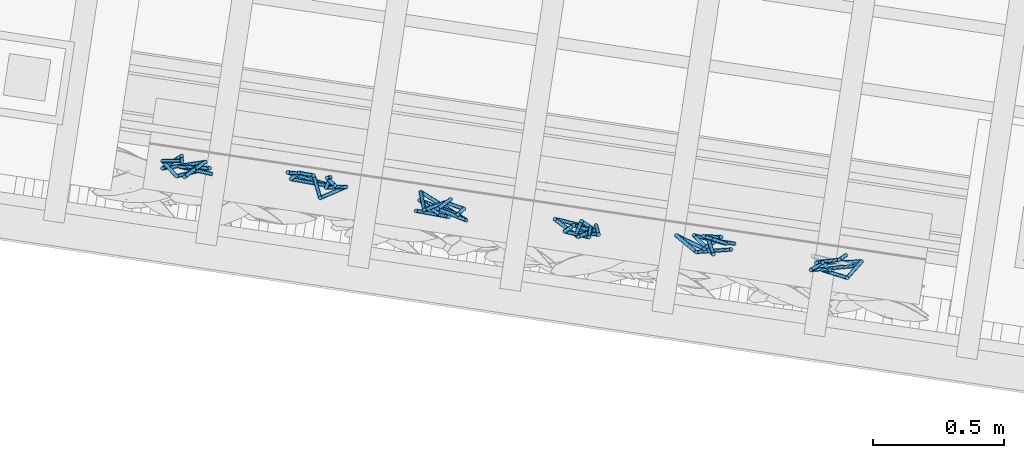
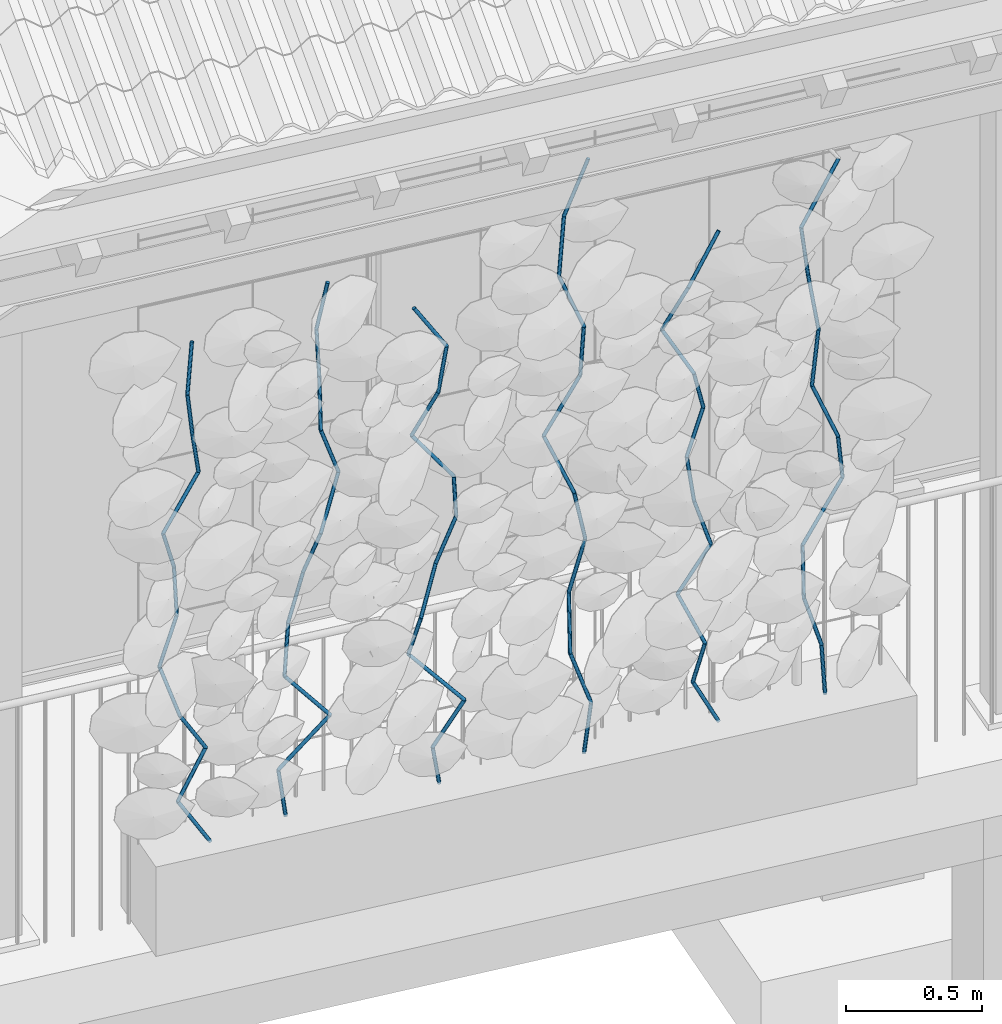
# One storey, part 109 of 131: 65 members, 1 element without a shape of its own.
"""IFC4 building model written with IfcOpenShell, lengths in metres."""

from ifc_helpers import new_model, si_unit, direction, frame, origin_with_axes, place, context, subcontext, project, spatial, circle, extrude, material, material_profile, profile_set, profile_usage, type_object, element, aggregate, save


model = new_model("IFC4")

# Units and contexts
model_context = context("Model", 3, precision=1e-05, world=origin_with_axes(), true_north=direction((0.0, 1.0)))
body_context = subcontext(model_context, "Body", "Model", "MODEL_VIEW")
ifc_project = project(units=[si_unit("AREAUNIT", "SQUARE_METRE"), si_unit("VOLUMEUNIT", "CUBIC_METRE"), si_unit("LENGTHUNIT", "METRE")], contexts=[model_context])

# Site, building, storey
site_placement = place(None, origin_with_axes())
site = spatial("IfcSite", under=ifc_project, at=site_placement, Name="Lares · Rua das Mercês · artigo 4771")
building_placement = place(site_placement, frame((15.0, 9.7, 14.65), z_axis=(0.0, 0.0, 1.0), x_axis=(0.989015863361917, -0.147809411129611, 0.0)))
building = spatial("IfcBuilding", under=site, at=building_placement, Name="Casa Sobreposta")
storey_placement = place(building_placement, origin_with_axes())
storey = spatial("IfcBuildingStorey", under=building, at=storey_placement, Name="00 · Habitação e estacionamento", Elevation=14.65)

# Assembly, members
assembly_placement = place(storey_placement, origin_with_axes())
assembly = element("IfcElementAssembly", 1, at=assembly_placement, inside=storey, Name="Fachada sul e pátio · estrutura e trepadeiras", ObjectType="LIVING_SHADE_TRELLIS", PredefinedType="USERDEFINED")
ifc_material = material(Name="Ramos de trepadeiras", Category="wood")
ifc_material_profile = material_profile(ifc_material, circle(Radius=0.0075))
ifc_profile_set = profile_set([ifc_material_profile], Name="D0.015")
ifc_profile_usage_1 = profile_usage(ifc_profile_set)
member_type = type_object("IfcMemberType", Name="D0.015 / vine_wood", PredefinedType="NOTDEFINED", material=ifc_profile_set)
member_1_placement = place(assembly_placement, frame((4.75122920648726, -1.69070800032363, 0.35), z_axis=(-0.518684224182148, 0.0390930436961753, 0.85407166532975), x_axis=(0.0751564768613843, 0.997171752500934, 0.0)))
member_1 = element("IfcMember", 2, at=member_1_placement, type_object=member_type, material=ifc_profile_usage_1, Name="Trepadeiras · ramo", context=body_context, shape_type="SweptSolid", body=[
    extrude(circle(Radius=0.0075), origin_with_axes(), (0.0, 0.0, 1.0), 0.239359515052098),
])
ifc_profile_usage_2 = profile_usage(ifc_profile_set)
member_2_placement = place(assembly_placement, frame((4.62707720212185, -1.68135070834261, 0.554430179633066), z_axis=(0.489334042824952, 0.051012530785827, 0.870603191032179), x_axis=(0.103686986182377, -0.994609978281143, 0.0)))
member_2 = element("IfcMember", 3, at=member_2_placement, type_object=member_type, material=ifc_profile_usage_2, Name="Trepadeiras · ramo", context=body_context, shape_type="SweptSolid", body=[
    extrude(circle(Radius=0.0075), origin_with_axes(), (0.0, 0.0, 1.0), 0.2348144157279),
])
ifc_profile_usage_3 = profile_usage(ifc_profile_set)
member_3_placement = place(assembly_placement, frame((4.74197988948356, -1.66937223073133, 0.758860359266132), z_axis=(-0.498709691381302, -0.204181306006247, 0.842376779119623), x_axis=(-0.378893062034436, 0.925440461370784, 0.0)))
member_3 = element("IfcMember", 4, at=member_3_placement, type_object=member_type, material=ifc_profile_usage_3, Name="Trepadeiras · ramo", context=body_context, shape_type="SweptSolid", body=[
    extrude(circle(Radius=0.0075), origin_with_axes(), (0.0, 0.0, 1.0), 0.242682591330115),
])
ifc_profile_usage_4 = profile_usage(ifc_profile_set)
member_4_placement = place(assembly_placement, frame((4.6209517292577, -1.71892347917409, 0.963290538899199), z_axis=(-0.281420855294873, 0.2249680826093, 0.932840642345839), x_axis=(0.624409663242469, 0.78109703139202, 0.0)))
member_4 = element("IfcMember", 5, at=member_4_placement, type_object=member_type, material=ifc_profile_usage_4, Name="Trepadeiras · ramo", context=body_context, shape_type="SweptSolid", body=[
    extrude(circle(Radius=0.0075), origin_with_axes(), (0.0, 0.0, 1.0), 0.219148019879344),
])
ifc_profile_usage_5 = profile_usage(ifc_profile_set)
member_5_placement = place(assembly_placement, frame((4.55927890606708, -1.66962216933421, 1.16772071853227), z_axis=(0.334839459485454, 0.0497730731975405, 0.940959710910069), x_axis=(0.147032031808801, -0.989131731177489, 0.0)))
member_5 = element("IfcMember", 6, at=member_5_placement, type_object=member_type, material=ifc_profile_usage_5, Name="Trepadeiras · ramo", context=body_context, shape_type="SweptSolid", body=[
    extrude(circle(Radius=0.0075), origin_with_axes(), (0.0, 0.0, 1.0), 0.217257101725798),
])
ifc_profile_usage_6 = profile_usage(ifc_profile_set)
member_6_placement = place(assembly_placement, frame((4.63202515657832, -1.65880861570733, 1.37215089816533), z_axis=(-0.0155370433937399, 0.0965979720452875, 0.995202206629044), x_axis=(0.987310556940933, 0.158801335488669, -2.20565392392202e-18)))
member_6 = element("IfcMember", 7, at=member_6_placement, type_object=member_type, material=ifc_profile_usage_6, Name="Trepadeiras · ramo", context=body_context, shape_type="SweptSolid", body=[
    extrude(circle(Radius=0.0075), origin_with_axes(), (0.0, 0.0, 1.0), 0.205415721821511),
])
ifc_profile_usage_7 = profile_usage(ifc_profile_set)
member_7_placement = place(assembly_placement, frame((4.62883360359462, -1.63896587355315, 1.5765810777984), z_axis=(-0.296042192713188, -0.262748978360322, 0.918325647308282), x_axis=(-0.663799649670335, 0.747910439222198, 0.0)))
member_7 = element("IfcMember", 8, at=member_7_placement, type_object=member_type, material=ifc_profile_usage_7, Name="Trepadeiras · ramo", context=body_context, shape_type="SweptSolid", body=[
    extrude(circle(Radius=0.0075), origin_with_axes(), (0.0, 0.0, 1.0), 0.222611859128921),
])
ifc_profile_usage_8 = profile_usage(ifc_profile_set)
member_8_placement = place(assembly_placement, frame((4.56293110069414, -1.69745691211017, 1.78101125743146), z_axis=(0.602593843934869, 0.184528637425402, 0.776421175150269), x_axis=(0.29280296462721, -0.956172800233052, 0.0)))
member_8 = element("IfcMember", 9, at=member_8_placement, type_object=member_type, material=ifc_profile_usage_8, Name="Trepadeiras · ramo", context=body_context, shape_type="SweptSolid", body=[
    extrude(circle(Radius=0.0075), origin_with_axes(), (0.0, 0.0, 1.0), 0.263298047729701),
])
ifc_profile_usage_9 = profile_usage(ifc_profile_set)
member_9_placement = place(assembly_placement, frame((4.72159288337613, -1.64887088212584, 1.98544143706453), z_axis=(-0.183474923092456, -0.172511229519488, 0.967768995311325), x_axis=(-0.685004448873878, 0.728538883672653, 0.0)))
member_9 = element("IfcMember", 10, at=member_9_placement, type_object=member_type, material=ifc_profile_usage_9, Name="Trepadeiras · ramo", context=body_context, shape_type="SweptSolid", body=[
    extrude(circle(Radius=0.0075), origin_with_axes(), (0.0, 0.0, 1.0), 0.211238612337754),
])
ifc_profile_usage_10 = profile_usage(ifc_profile_set)
member_10_placement = place(assembly_placement, frame((4.6828358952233, -1.68531191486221, 2.1898716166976), z_axis=(-0.151703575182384, -0.152460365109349, 0.976597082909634), x_axis=(-0.708863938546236, 0.705345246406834, 0.0)))
member_10 = element("IfcMember", 11, at=member_10_placement, type_object=member_type, material=ifc_profile_usage_10, Name="Trepadeiras · ramo", context=body_context, shape_type="SweptSolid", body=[
    extrude(circle(Radius=0.0075), origin_with_axes(), (0.0, 0.0, 1.0), 0.209329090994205),
])
ifc_profile_usage_11 = profile_usage(ifc_profile_set)
member_11_placement = place(assembly_placement, frame((4.6510799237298, -1.7172263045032, 2.39430179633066), z_axis=(0.152772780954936, 0.174728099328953, 0.972692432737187), x_axis=(0.75282070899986, -0.658225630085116, 0.0)))
member_11 = element("IfcMember", 12, at=member_11_placement, type_object=member_type, material=ifc_profile_usage_11, Name="Trepadeiras · ramo", context=body_context, shape_type="SweptSolid", body=[
    extrude(circle(Radius=0.0075), origin_with_axes(), (0.0, 0.0, 1.0), 0.21016939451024),
])
ifc_profile_usage_12 = profile_usage(ifc_profile_set)
member_12_placement = place(assembly_placement, frame((5.06868094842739, -1.64046507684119, 0.35), z_axis=(-0.137952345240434, -0.00819560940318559, 0.990404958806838), x_axis=(-0.0593044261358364, 0.998239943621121, 0.0)))
member_12 = element("IfcMember", 13, at=member_12_placement, type_object=member_type, material=ifc_profile_usage_12, Name="Trepadeiras · ramo", context=body_context, shape_type="SweptSolid", body=[
    extrude(circle(Radius=0.0075), origin_with_axes(), (0.0, 0.0, 1.0), 0.217030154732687),
])
ifc_profile_usage_13 = profile_usage(ifc_profile_set)
member_13_placement = place(assembly_placement, frame((5.03874112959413, -1.64224377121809, 0.564947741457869), z_axis=(0.665448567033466, -0.0975228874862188, 0.740045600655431), x_axis=(-0.145003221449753, -0.989431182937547, 0.0)))
member_13 = element("IfcMember", 14, at=member_13_placement, type_object=member_type, material=ifc_profile_usage_13, Name="Trepadeiras · ramo", context=body_context, shape_type="SweptSolid", body=[
    extrude(circle(Radius=0.0075), origin_with_axes(), (0.0, 0.0, 1.0), 0.290452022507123),
])
ifc_profile_usage_14 = profile_usage(ifc_profile_set)
member_14_placement = place(assembly_placement, frame((5.23202201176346, -1.67056949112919, 0.779895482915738), z_axis=(-0.636980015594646, 0.019434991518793, 0.770635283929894), x_axis=(0.030496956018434, 0.999534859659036, 0.0)))
member_14 = element("IfcMember", 15, at=member_14_placement, type_object=member_type, material=ifc_profile_usage_14, Name="Trepadeiras · ramo", context=body_context, shape_type="SweptSolid", body=[
    extrude(circle(Radius=0.0075), origin_with_axes(), (0.0, 0.0, 1.0), 0.278922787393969),
])
ifc_profile_usage_15 = profile_usage(ifc_profile_set)
member_15_placement = place(assembly_placement, frame((5.05435377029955, -1.66514862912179, 0.994843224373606), z_axis=(0.115761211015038, 0.129508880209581, 0.984797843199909), x_axis=(0.745570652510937, -0.66642659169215, 0.0)))
member_15 = element("IfcMember", 16, at=member_15_placement, type_object=member_type, material=ifc_profile_usage_15, Name="Trepadeiras · ramo", context=body_context, shape_type="SweptSolid", body=[
    extrude(circle(Radius=0.0075), origin_with_axes(), (0.0, 0.0, 1.0), 0.218265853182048),
])
ifc_profile_usage_16 = profile_usage(ifc_profile_set)
member_16_placement = place(assembly_placement, frame((5.07962048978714, -1.6368812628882, 1.20979096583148), z_axis=(0.263759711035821, -0.0100204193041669, 0.964536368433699), x_axis=(-0.037963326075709, -0.9992791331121, 1.58477361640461e-18)))
member_16 = element("IfcMember", 17, at=member_16_placement, type_object=member_type, material=ifc_profile_usage_16, Name="Trepadeiras · ramo", context=body_context, shape_type="SweptSolid", body=[
    extrude(circle(Radius=0.0075), origin_with_axes(), (0.0, 0.0, 1.0), 0.22285084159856),
])
ifc_profile_usage_17 = profile_usage(ifc_profile_set)
member_17_placement = place(assembly_placement, frame((5.13839956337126, -1.6391143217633, 1.42473870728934), z_axis=(0.161438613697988, -0.347744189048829, 0.923586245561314), x_axis=(-0.90702296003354, -0.42108116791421, 0.0)))
member_17 = element("IfcMember", 18, at=member_17_placement, type_object=member_type, material=ifc_profile_usage_17, Name="Trepadeiras · ramo", context=body_context, shape_type="SweptSolid", body=[
    extrude(circle(Radius=0.0075), origin_with_axes(), (0.0, 0.0, 1.0), 0.232731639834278),
])
ifc_profile_usage_18 = profile_usage(ifc_profile_set)
member_18_placement = place(assembly_placement, frame((5.17597143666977, -1.72004539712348, 1.63968644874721), z_axis=(0.381320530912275, 0.236593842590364, 0.893654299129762), x_axis=(0.527221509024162, -0.849727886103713, 0.0)))
member_18 = element("IfcMember", 19, at=member_18_placement, type_object=member_type, material=ifc_profile_usage_18, Name="Trepadeiras · ramo", context=body_context, shape_type="SweptSolid", body=[
    extrude(circle(Radius=0.0075), origin_with_axes(), (0.0, 0.0, 1.0), 0.240526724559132),
])
ifc_profile_usage_19 = profile_usage(ifc_profile_set)
member_19_placement = place(assembly_placement, frame((5.26768921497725, -1.66313825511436, 1.85463419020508), z_axis=(-0.330503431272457, -0.0630043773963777, 0.941699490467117), x_axis=(-0.187259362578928, 0.98231050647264, 0.0)))
member_19 = element("IfcMember", 20, at=member_19_placement, type_object=member_type, material=ifc_profile_usage_19, Name="Trepadeiras · ramo", context=body_context, shape_type="SweptSolid", body=[
    extrude(circle(Radius=0.0075), origin_with_axes(), (0.0, 0.0, 1.0), 0.2282551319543),
])
ifc_profile_usage_20 = profile_usage(ifc_profile_set)
member_20_placement = place(assembly_placement, frame((5.1922501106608, -1.67751932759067, 2.06958193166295), z_axis=(0.046925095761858, 0.189441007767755, 0.980770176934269), x_axis=(0.970664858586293, -0.2404365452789, 0.0)))
member_20 = element("IfcMember", 21, at=member_20_placement, type_object=member_type, material=ifc_profile_usage_20, Name="Trepadeiras · ramo", context=body_context, shape_type="SweptSolid", body=[
    extrude(circle(Radius=0.0075), origin_with_axes(), (0.0, 0.0, 1.0), 0.219162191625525),
])
ifc_profile_usage_21 = profile_usage(ifc_profile_set)
member_21_placement = place(assembly_placement, frame((5.20253431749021, -1.63600102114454, 2.28452967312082), z_axis=(-0.0592955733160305, -0.0221108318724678, 0.997995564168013), x_axis=(-0.349391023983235, 0.936977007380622, 0.0)))
member_21 = element("IfcMember", 22, at=member_21_placement, type_object=member_type, material=ifc_profile_usage_21, Name="Trepadeiras · ramo", context=body_context, shape_type="SweptSolid", body=[
    extrude(circle(Radius=0.0075), origin_with_axes(), (0.0, 0.0, 1.0), 0.215379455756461),
])
ifc_profile_usage_22 = profile_usage(ifc_profile_set)
member_22_placement = place(assembly_placement, frame((5.18976326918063, -1.64076324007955, 2.49947741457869), z_axis=(0.15933076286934, -0.109261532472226, 0.981160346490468), x_axis=(-0.565550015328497, -0.824713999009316, 0.0)))
member_22 = element("IfcMember", 23, at=member_22_placement, type_object=member_type, material=ifc_profile_usage_22, Name="Trepadeiras · ramo", context=body_context, shape_type="SweptSolid", body=[
    extrude(circle(Radius=0.0075), origin_with_axes(), (0.0, 0.0, 1.0), 0.219075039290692),
])
ifc_profile_usage_23 = profile_usage(ifc_profile_set)
member_23_placement = place(assembly_placement, frame((5.66950418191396, -1.65129466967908, 0.35), z_axis=(-0.205530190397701, -0.206844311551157, 0.956542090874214), x_axis=(-0.709356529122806, 0.704849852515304, 0.0)))
member_23 = element("IfcMember", 24, at=member_23_placement, type_object=member_type, material=ifc_profile_usage_23, Name="Trepadeiras · ramo", context=body_context, shape_type="SweptSolid", body=[
    extrude(circle(Radius=0.0075), origin_with_axes(), (0.0, 0.0, 1.0), 0.209011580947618),
])
ifc_profile_usage_24 = profile_usage(ifc_profile_set)
member_24_placement = place(assembly_placement, frame((5.62654599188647, -1.69452752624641, 0.54992837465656), z_axis=(0.494911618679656, -0.11866439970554, 0.860802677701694), x_axis=(-0.233160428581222, -0.972438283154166, 0.0)))
member_24 = element("IfcMember", 25, at=member_24_placement, type_object=member_type, material=ifc_profile_usage_24, Name="Trepadeiras · ramo", context=body_context, shape_type="SweptSolid", body=[
    extrude(circle(Radius=0.0075), origin_with_axes(), (0.0, 0.0, 1.0), 0.232258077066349),
])
ifc_profile_usage_25 = profile_usage(ifc_profile_set)
member_25_placement = place(assembly_placement, frame((5.7414932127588, -1.72208829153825, 0.749856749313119), z_axis=(-0.659269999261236, 0.284205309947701, 0.696125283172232), x_axis=(0.395873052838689, 0.91830524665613, 0.0)))
member_25 = element("IfcMember", 26, at=member_25_placement, type_object=member_type, material=ifc_profile_usage_25, Name="Trepadeiras · ramo", context=body_context, shape_type="SweptSolid", body=[
    extrude(circle(Radius=0.0075), origin_with_axes(), (0.0, 0.0, 1.0), 0.287201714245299),
])
ifc_profile_usage_26 = profile_usage(ifc_profile_set)
member_26_placement = place(assembly_placement, frame((5.55214973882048, -1.64046403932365, 0.949785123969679), z_axis=(0.112788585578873, -0.311886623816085, 0.943401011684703), x_axis=(-0.940396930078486, -0.340078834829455, -1.97379042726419e-17)))
member_26 = element("IfcMember", 27, at=member_26_placement, type_object=member_type, material=ifc_profile_usage_26, Name="Trepadeiras · ramo", context=body_context, shape_type="SweptSolid", body=[
    extrude(circle(Radius=0.0075), origin_with_axes(), (0.0, 0.0, 1.0), 0.211923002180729),
])
ifc_profile_usage_27 = profile_usage(ifc_profile_set)
member_27_placement = place(assembly_placement, frame((5.57605223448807, -1.70655998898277, 1.14971349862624), z_axis=(0.341737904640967, 0.186741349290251, 0.921055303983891), x_axis=(0.479522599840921, -0.877529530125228, 0.0)))
member_27 = element("IfcMember", 28, at=member_27_placement, type_object=member_type, material=ifc_profile_usage_27, Name="Trepadeiras · ramo", context=body_context, shape_type="SweptSolid", body=[
    extrude(circle(Radius=0.0075), origin_with_axes(), (0.0, 0.0, 1.0), 0.217064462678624),
])
ifc_profile_usage_28 = profile_usage(ifc_profile_set)
member_28_placement = place(assembly_placement, frame((5.65023138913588, -1.6660250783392, 1.3496418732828), z_axis=(0.350783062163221, -0.0651607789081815, 0.934186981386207), x_axis=(-0.182633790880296, -0.983181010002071, 0.0)))
member_28 = element("IfcMember", 29, at=member_28_placement, type_object=member_type, material=ifc_profile_usage_28, Name="Trepadeiras · ramo", context=body_context, shape_type="SweptSolid", body=[
    extrude(circle(Radius=0.0075), origin_with_axes(), (0.0, 0.0, 1.0), 0.214013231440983),
])
ifc_profile_usage_29 = profile_usage(ifc_profile_set)
member_29_placement = place(assembly_placement, frame((5.72530360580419, -1.67997034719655, 1.54957024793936), z_axis=(-0.0969763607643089, -0.121686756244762, 0.987819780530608), x_axis=(-0.782036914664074, 0.623232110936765, 0.0)))
member_29 = element("IfcMember", 30, at=member_29_placement, type_object=member_type, material=ifc_profile_usage_29, Name="Trepadeiras · ramo", context=body_context, shape_type="SweptSolid", body=[
    extrude(circle(Radius=0.0075), origin_with_axes(), (0.0, 0.0, 1.0), 0.202393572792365),
])
ifc_profile_usage_30 = profile_usage(ifc_profile_set)
member_30_placement = place(assembly_placement, frame((5.7056762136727, -1.70459896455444, 1.74949862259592), z_axis=(-0.603457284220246, 0.128578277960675, 0.786960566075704), x_axis=(0.208391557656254, 0.978045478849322, 0.0)))
member_30 = element("IfcMember", 31, at=member_30_placement, type_object=member_type, material=ifc_profile_usage_30, Name="Trepadeiras · ramo", context=body_context, shape_type="SweptSolid", body=[
    extrude(circle(Radius=0.0075), origin_with_axes(), (0.0, 0.0, 1.0), 0.254051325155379),
])
ifc_profile_usage_31 = profile_usage(ifc_profile_set)
member_31_placement = place(assembly_placement, frame((5.55236709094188, -1.67193348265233, 1.94942699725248), z_axis=(0.393051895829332, -0.199468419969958, 0.897620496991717), x_axis=(-0.452546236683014, -0.89174093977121, 0.0)))
member_31 = element("IfcMember", 32, at=member_31_placement, type_object=member_type, material=ifc_profile_usage_31, Name="Trepadeiras · ramo", context=body_context, shape_type="SweptSolid", body=[
    extrude(circle(Radius=0.0075), origin_with_axes(), (0.0, 0.0, 1.0), 0.22273151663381),
])
ifc_profile_usage_32 = profile_usage(ifc_profile_set)
member_32_placement = place(assembly_placement, frame((5.63991213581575, -1.71636138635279, 2.14935537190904), z_axis=(0.159426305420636, -0.0119359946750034, 0.987137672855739), x_axis=(-0.0746594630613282, -0.997209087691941, 0.0)))
member_32 = element("IfcMember", 33, at=member_32_placement, type_object=member_type, material=ifc_profile_usage_32, Name="Trepadeiras · ramo", context=body_context, shape_type="SweptSolid", body=[
    extrude(circle(Radius=0.0075), origin_with_axes(), (0.0, 0.0, 1.0), 0.202533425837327),
])
ifc_profile_usage_33 = profile_usage(ifc_profile_set)
member_33_placement = place(assembly_placement, frame((5.67220129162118, -1.7187788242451, 2.3492837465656), z_axis=(-0.537931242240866, 0.0189032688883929, 0.842776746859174), x_axis=(0.0351190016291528, 0.999383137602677, 0.0)))
member_33 = element("IfcMember", 34, at=member_33_placement, type_object=member_type, material=ifc_profile_usage_33, Name="Trepadeiras · ramo", context=body_context, shape_type="SweptSolid", body=[
    extrude(circle(Radius=0.0075), origin_with_axes(), (0.0, 0.0, 1.0), 0.237225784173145),
])
ifc_profile_usage_34 = profile_usage(ifc_profile_set)
member_34_placement = place(assembly_placement, frame((6.23384789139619, -1.66762222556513, 0.35), z_axis=(0.0596742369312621, -0.136129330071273, 0.988892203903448), x_axis=(-0.915866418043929, -0.401483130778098, 0.0)))
member_34 = element("IfcMember", 35, at=member_34_placement, type_object=member_type, material=ifc_profile_usage_34, Name="Trepadeiras · ramo", context=body_context, shape_type="SweptSolid", body=[
    extrude(circle(Radius=0.0075), origin_with_axes(), (0.0, 0.0, 1.0), 0.246138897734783),
])
ifc_profile_usage_35 = profile_usage(ifc_profile_set)
member_35_placement = place(assembly_placement, frame((6.24853604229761, -1.70112894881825, 0.593404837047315), z_axis=(-0.322780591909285, -0.00849818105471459, 0.946435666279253), x_axis=(-0.0263189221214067, 0.999653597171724, 0.0)))
member_35 = element("IfcMember", 36, at=member_35_placement, type_object=member_type, material=ifc_profile_usage_35, Name="Trepadeiras · ramo", context=body_context, shape_type="SweptSolid", body=[
    extrude(circle(Radius=0.0075), origin_with_axes(), (0.0, 0.0, 1.0), 0.257180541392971),
])
ifc_profile_usage_36 = profile_usage(ifc_profile_set)
member_36_placement = place(assembly_placement, frame((6.16552315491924, -1.70331451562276, 0.836809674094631), z_axis=(0.0452625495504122, 0.173128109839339, 0.983858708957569), x_axis=(0.967482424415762, -0.252938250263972, 0.0)))
member_36 = element("IfcMember", 37, at=member_36_placement, type_object=member_type, material=ifc_profile_usage_36, Name="Trepadeiras · ramo", context=body_context, shape_type="SweptSolid", body=[
    extrude(circle(Radius=0.0075), origin_with_axes(), (0.0, 0.0, 1.0), 0.247398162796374),
])
ifc_profile_usage_37 = profile_usage(ifc_profile_set)
member_37_placement = place(assembly_placement, frame((6.17672102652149, -1.6604829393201, 1.08021451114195), z_axis=(0.217194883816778, -0.103894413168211, 0.970583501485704), x_axis=(-0.431518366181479, -0.90210415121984, 0.0)))
member_37 = element("IfcMember", 38, at=member_37_placement, type_object=member_type, material=ifc_profile_usage_37, Name="Trepadeiras · ramo", context=body_context, shape_type="SweptSolid", body=[
    extrude(circle(Radius=0.0075), origin_with_axes(), (0.0, 0.0, 1.0), 0.250781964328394),
])
ifc_profile_usage_38 = profile_usage(ifc_profile_set)
member_38_placement = place(assembly_placement, frame((6.23118958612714, -1.68653778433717, 1.32361934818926), z_axis=(-0.227746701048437, -0.137682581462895, 0.963937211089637), x_axis=(-0.517351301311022, 0.855773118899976, 0.0)))
member_38 = element("IfcMember", 39, at=member_38_placement, type_object=member_type, material=ifc_profile_usage_38, Name="Trepadeiras · ramo", context=body_context, shape_type="SweptSolid", body=[
    extrude(circle(Radius=0.0075), origin_with_axes(), (0.0, 0.0, 1.0), 0.252511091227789),
])
ifc_profile_usage_39 = profile_usage(ifc_profile_set)
member_39_placement = place(assembly_placement, frame((6.17368101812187, -1.72130416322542, 1.56702418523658), z_axis=(-0.369595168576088, 0.20129408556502, 0.907127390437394), x_axis=(0.478296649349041, 0.878198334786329, 0.0)))
member_39 = element("IfcMember", 40, at=member_39_placement, type_object=member_type, material=ifc_profile_usage_39, Name="Trepadeiras · ramo", context=body_context, shape_type="SweptSolid", body=[
    extrude(circle(Radius=0.0075), origin_with_axes(), (0.0, 0.0, 1.0), 0.268324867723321),
])
ifc_profile_usage_40 = profile_usage(ifc_profile_set)
member_40_placement = place(assembly_placement, frame((6.07450944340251, -1.6672919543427, 1.81042902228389), z_axis=(0.49705681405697, -0.0433913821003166, 0.866632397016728), x_axis=(-0.0869658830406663, -0.996211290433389, 0.0)))
member_40 = element("IfcMember", 41, at=member_40_placement, type_object=member_type, material=ifc_profile_usage_40, Name="Trepadeiras · ramo", context=body_context, shape_type="SweptSolid", body=[
    extrude(circle(Radius=0.0075), origin_with_axes(), (0.0, 0.0, 1.0), 0.280862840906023),
])
ifc_profile_usage_41 = profile_usage(ifc_profile_set)
member_41_placement = place(assembly_placement, frame((6.21411423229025, -1.67947898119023, 2.05383385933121), z_axis=(-0.000663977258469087, -0.150236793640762, 0.988649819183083), x_axis=(-0.999990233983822, 0.0044194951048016, 0.0)))
member_41 = element("IfcMember", 42, at=member_41_placement, type_object=member_type, material=ifc_profile_usage_41, Name="Trepadeiras · ramo", context=body_context, shape_type="SweptSolid", body=[
    extrude(circle(Radius=0.0075), origin_with_axes(), (0.0, 0.0, 1.0), 0.246199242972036),
])
ifc_profile_usage_42 = profile_usage(ifc_profile_set)
member_42_placement = place(assembly_placement, frame((6.21395076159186, -1.71646716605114, 2.29723869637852), z_axis=(-0.363204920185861, 0.0303616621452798, 0.931214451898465), x_axis=(0.0833032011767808, 0.996524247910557, 0.0)))
member_42 = element("IfcMember", 43, at=member_42_placement, type_object=member_type, material=ifc_profile_usage_42, Name="Trepadeiras · ramo", context=body_context, shape_type="SweptSolid", body=[
    extrude(circle(Radius=0.0075), origin_with_axes(), (0.0, 0.0, 1.0), 0.261384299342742),
])
ifc_profile_usage_43 = profile_usage(ifc_profile_set)
member_43_placement = place(assembly_placement, frame((6.11901469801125, -1.70853110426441, 2.54064353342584), z_axis=(0.124656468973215, 0.11394797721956, 0.985635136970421), x_axis=(0.674692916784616, -0.738098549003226, 0.0)))
member_43 = element("IfcMember", 44, at=member_43_placement, type_object=member_type, material=ifc_profile_usage_43, Name="Trepadeiras · ramo", context=body_context, shape_type="SweptSolid", body=[
    extrude(circle(Radius=0.0075), origin_with_axes(), (0.0, 0.0, 1.0), 0.246952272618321),
])
ifc_profile_usage_44 = profile_usage(ifc_profile_set)
member_44_placement = place(assembly_placement, frame((6.14979889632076, -1.68039139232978, 2.78404837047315), z_axis=(0.348550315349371, -0.0526069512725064, 0.935812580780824), x_axis=(-0.149240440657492, -0.988800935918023, 0.0)))
member_44 = element("IfcMember", 45, at=member_44_placement, type_object=member_type, material=ifc_profile_usage_44, Name="Trepadeiras · ramo", context=body_context, shape_type="SweptSolid", body=[
    extrude(circle(Radius=0.0075), origin_with_axes(), (0.0, 0.0, 1.0), 0.26009998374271),
])
ifc_profile_usage_45 = profile_usage(ifc_profile_set)
member_45_placement = place(assembly_placement, frame((6.76755332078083, -1.65888668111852, 0.35), z_axis=(-0.448501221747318, 0.00414639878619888, 0.893772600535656), x_axis=(0.00924461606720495, 0.999957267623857, 0.0)))
member_45 = element("IfcMember", 46, at=member_45_placement, type_object=member_type, material=ifc_profile_usage_45, Name="Trepadeiras · ramo", context=body_context, shape_type="SweptSolid", body=[
    extrude(circle(Radius=0.0075), origin_with_axes(), (0.0, 0.0, 1.0), 0.225170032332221),
])
ifc_profile_usage_46 = profile_usage(ifc_profile_set)
member_46_placement = place(assembly_placement, frame((6.66656428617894, -1.65795303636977, 0.551250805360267), z_axis=(0.130163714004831, -0.25384617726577, 0.958446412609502), x_axis=(-0.889837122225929, -0.456278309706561, 0.0)))
member_46 = element("IfcMember", 47, at=member_46_placement, type_object=member_type, material=ifc_profile_usage_46, Name="Trepadeiras · ramo", context=body_context, shape_type="SweptSolid", body=[
    extrude(circle(Radius=0.0075), origin_with_axes(), (0.0, 0.0, 1.0), 0.209976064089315),
])
ifc_profile_usage_47 = profile_usage(ifc_profile_set)
member_47_placement = place(assembly_placement, frame((6.69389555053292, -1.71125465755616, 0.752501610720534), z_axis=(-0.374057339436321, 0.269779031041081, 0.887299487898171), x_axis=(0.58495820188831, 0.811063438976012, 0.0)))
member_47 = element("IfcMember", 48, at=member_47_placement, type_object=member_type, material=ifc_profile_usage_47, Name="Trepadeiras · ramo", context=body_context, shape_type="SweptSolid", body=[
    extrude(circle(Radius=0.0075), origin_with_axes(), (0.0, 0.0, 1.0), 0.226812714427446),
])
ifc_profile_usage_48 = profile_usage(ifc_profile_set)
member_48_placement = place(assembly_placement, frame((6.60905459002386, -1.65006534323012, 0.9537524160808), z_axis=(0.53027502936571, -0.0556057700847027, 0.846000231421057), x_axis=(-0.104290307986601, -0.994546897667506, 0.0)))
member_48 = element("IfcMember", 49, at=member_48_placement, type_object=member_type, material=ifc_profile_usage_48, Name="Trepadeiras · ramo", context=body_context, shape_type="SweptSolid", body=[
    extrude(circle(Radius=0.0075), origin_with_axes(), (0.0, 0.0, 1.0), 0.237885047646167),
])
ifc_profile_usage_49 = profile_usage(ifc_profile_set)
member_49_placement = place(assembly_placement, frame((6.7351990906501, -1.66329312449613, 1.15500322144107), z_axis=(-0.292391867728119, 0.0505748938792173, 0.954960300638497), x_axis=(0.170438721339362, 0.985368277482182, 0.0)))
member_49 = element("IfcMember", 50, at=member_49_placement, type_object=member_type, material=ifc_profile_usage_49, Name="Trepadeiras · ramo", context=body_context, shape_type="SweptSolid", body=[
    extrude(circle(Radius=0.0075), origin_with_axes(), (0.0, 0.0, 1.0), 0.210742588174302),
])
ifc_profile_usage_50 = profile_usage(ifc_profile_set)
member_50_placement = place(assembly_placement, frame((6.67357967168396, -1.65263484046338, 1.35625402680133), z_axis=(-0.134007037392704, 0.022996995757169, 0.990713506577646), x_axis=(0.169137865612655, 0.985592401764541, 0.0)))
member_50 = element("IfcMember", 51, at=member_50_placement, type_object=member_type, material=ifc_profile_usage_50, Name="Trepadeiras · ramo", context=body_context, shape_type="SweptSolid", body=[
    extrude(circle(Radius=0.0075), origin_with_axes(), (0.0, 0.0, 1.0), 0.203137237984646),
])
ifc_profile_usage_51 = profile_usage(ifc_profile_set)
member_51_placement = place(assembly_placement, frame((6.6463578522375, -1.64796329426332, 1.5575048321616), z_axis=(0.318926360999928, 0.0294451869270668, 0.947321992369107), x_axis=(0.0919349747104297, -0.995765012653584, 0.0)))
member_51 = element("IfcMember", 52, at=member_51_placement, type_object=member_type, material=ifc_profile_usage_51, Name="Trepadeiras · ramo", context=body_context, shape_type="SweptSolid", body=[
    extrude(circle(Radius=0.0075), origin_with_axes(), (0.0, 0.0, 1.0), 0.212441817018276),
])
ifc_profile_usage_52 = profile_usage(ifc_profile_set)
member_52_placement = place(assembly_placement, frame((6.71411114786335, -1.64170790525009, 1.75875563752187), z_axis=(-0.269313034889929, -0.249933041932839, 0.930055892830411), x_axis=(-0.680241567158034, 0.732988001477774, 0.0)))
member_52 = element("IfcMember", 53, at=member_52_placement, type_object=member_type, material=ifc_profile_usage_52, Name="Trepadeiras · ramo", context=body_context, shape_type="SweptSolid", body=[
    extrude(circle(Radius=0.0075), origin_with_axes(), (0.0, 0.0, 1.0), 0.216385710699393),
])
ifc_profile_usage_53 = profile_usage(ifc_profile_set)
member_53_placement = place(assembly_placement, frame((6.65583565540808, -1.69578984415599, 1.96000644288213), z_axis=(-0.482108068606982, 0.151816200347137, 0.862857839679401), x_axis=(0.300360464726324, 0.953825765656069, 0.0)))
member_53 = element("IfcMember", 54, at=member_53_placement, type_object=member_type, material=ifc_profile_usage_53, Name="Trepadeiras · ramo", context=body_context, shape_type="SweptSolid", body=[
    extrude(circle(Radius=0.0075), origin_with_axes(), (0.0, 0.0, 1.0), 0.233237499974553),
])
ifc_profile_usage_54 = profile_usage(ifc_profile_set)
member_54_placement = place(assembly_placement, frame((6.54338997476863, -1.66038061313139, 2.1612572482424), z_axis=(0.378364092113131, -0.229513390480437, 0.89675203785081), x_axis=(-0.518635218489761, -0.854995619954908, 0.0)))
member_54 = element("IfcMember", 55, at=member_54_placement, type_object=member_type, material=ifc_profile_usage_54, Name="Trepadeiras · ramo", context=body_context, shape_type="SweptSolid", body=[
    extrude(circle(Radius=0.0075), origin_with_axes(), (0.0, 0.0, 1.0), 0.224421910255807),
])
ifc_profile_usage_55 = profile_usage(ifc_profile_set)
member_55_placement = place(assembly_placement, frame((6.62830316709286, -1.7118884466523, 2.36250805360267), z_axis=(0.540702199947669, 0.12110116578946, 0.832451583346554), x_axis=(0.218555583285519, -0.975824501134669, 0.0)))
member_55 = element("IfcMember", 56, at=member_55_placement, type_object=member_type, material=ifc_profile_usage_55, Name="Trepadeiras · ramo", context=body_context, shape_type="SweptSolid", body=[
    extrude(circle(Radius=0.0075), origin_with_axes(), (0.0, 0.0, 1.0), 0.241756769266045),
])
ifc_profile_usage_56 = profile_usage(ifc_profile_set)
member_56_placement = place(assembly_placement, frame((7.19524020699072, -1.63921700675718, 0.35), z_axis=(-0.0932618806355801, -0.088362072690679, 0.991712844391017), x_axis=(-0.687780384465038, 0.725918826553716, 0.0)))
member_56 = element("IfcMember", 57, at=member_56_placement, type_object=member_type, material=ifc_profile_usage_56, Name="Trepadeiras · ramo", context=body_context, shape_type="SweptSolid", body=[
    extrude(circle(Radius=0.0075), origin_with_axes(), (0.0, 0.0, 1.0), 0.243011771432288),
])
ifc_profile_usage_57 = profile_usage(ifc_profile_set)
member_57_placement = place(assembly_placement, frame((7.17257647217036, -1.66069003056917, 0.590997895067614), z_axis=(-0.304604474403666, -0.0778674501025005, 0.949290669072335), x_axis=(-0.247670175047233, 0.96884440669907, 0.0)))
member_57 = element("IfcMember", 58, at=member_57_placement, type_object=member_type, material=ifc_profile_usage_57, Name="Trepadeiras · ramo", context=body_context, shape_type="SweptSolid", body=[
    extrude(circle(Radius=0.0075), origin_with_axes(), (0.0, 0.0, 1.0), 0.253871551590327),
])
ifc_profile_usage_58 = profile_usage(ifc_profile_set)
member_58_placement = place(assembly_placement, frame((7.09524606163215, -1.68045836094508, 0.831995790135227), z_axis=(-0.0270554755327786, -0.0167978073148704, 0.999492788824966), x_axis=(0.99963393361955, -0.000454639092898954, 0.0270516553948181)))
member_58 = element("IfcMember", 59, at=member_58_placement, type_object=member_type, material=ifc_profile_usage_58, Name="Trepadeiras · ramo", context=body_context, shape_type="SweptSolid", body=[
    extrude(circle(Radius=0.0075), origin_with_axes(), (0.0, 0.0, 1.0), 0.241120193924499),
])
ifc_profile_usage_59 = profile_usage(ifc_profile_set)
member_59_placement = place(assembly_placement, frame((7.08872244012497, -1.68450865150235, 1.07299368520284), z_axis=(0.57158784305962, 0.101383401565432, 0.8142534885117), x_axis=(0.174645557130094, -0.984631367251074, 0.0)))
member_59 = element("IfcMember", 60, at=member_59_placement, type_object=member_type, material=ifc_profile_usage_59, Name="Trepadeiras · ramo", context=body_context, shape_type="SweptSolid", body=[
    extrude(circle(Radius=0.0075), origin_with_axes(), (0.0, 0.0, 1.0), 0.295974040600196),
])
ifc_profile_usage_60 = profile_usage(ifc_profile_set)
member_60_placement = place(assembly_placement, frame((7.25789760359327, -1.65450179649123, 1.31399158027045), z_axis=(-0.177782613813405, -0.272952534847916, 0.945457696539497), x_axis=(-0.837933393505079, 0.545772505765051, 0.0)))
member_60 = element("IfcMember", 61, at=member_60_placement, type_object=member_type, material=ifc_profile_usage_60, Name="Trepadeiras · ramo", context=body_context, shape_type="SweptSolid", body=[
    extrude(circle(Radius=0.0075), origin_with_axes(), (0.0, 0.0, 1.0), 0.254900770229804),
])
ifc_profile_usage_61 = profile_usage(ifc_profile_set)
member_61_placement = place(assembly_placement, frame((7.21258067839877, -1.72407760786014, 1.55498947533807), z_axis=(-0.371591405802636, 0.0580037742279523, 0.92658264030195), x_axis=(0.154227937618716, 0.988035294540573, 0.0)))
member_61 = element("IfcMember", 62, at=member_61_placement, type_object=member_type, material=ifc_profile_usage_61, Name="Trepadeiras · ramo", context=body_context, shape_type="SweptSolid", body=[
    extrude(circle(Radius=0.0075), origin_with_axes(), (0.0, 0.0, 1.0), 0.260093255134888),
])
ifc_profile_usage_62 = profile_usage(ifc_profile_set)
member_62_placement = place(assembly_placement, frame((7.11593226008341, -1.70899121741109, 1.79598737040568), z_axis=(0.114788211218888, 0.0214232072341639, 0.99315895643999), x_axis=(0.183464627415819, -0.983026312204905, 0.0)))
member_62 = element("IfcMember", 63, at=member_62_placement, type_object=member_type, material=ifc_profile_usage_62, Name="Trepadeiras · ramo", context=body_context, shape_type="SweptSolid", body=[
    extrude(circle(Radius=0.0075), origin_with_axes(), (0.0, 0.0, 1.0), 0.242657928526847),
])
ifc_profile_usage_63 = profile_usage(ifc_profile_set)
member_63_placement = place(assembly_placement, frame((7.14378652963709, -1.70379270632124, 2.0369852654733), z_axis=(-0.13260385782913, 0.0969628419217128, 0.98641493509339), x_axis=(0.590254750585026, 0.807217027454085, 0.0)))
member_63 = element("IfcMember", 64, at=member_63_placement, type_object=member_type, material=ifc_profile_usage_63, Name="Trepadeiras · ramo", context=body_context, shape_type="SweptSolid", body=[
    extrude(circle(Radius=0.0075), origin_with_axes(), (0.0, 0.0, 1.0), 0.244316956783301),
])
ifc_profile_usage_64 = profile_usage(ifc_profile_set)
member_64_placement = place(assembly_placement, frame((7.11138915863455, -1.68010303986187, 2.27798316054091), z_axis=(-0.16396892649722, -0.142554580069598, 0.976110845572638), x_axis=(-0.656107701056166, 0.754667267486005, 1.55866703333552e-17)))
member_64 = element("IfcMember", 65, at=member_64_placement, type_object=member_type, material=ifc_profile_usage_64, Name="Trepadeiras · ramo", context=body_context, shape_type="SweptSolid", body=[
    extrude(circle(Radius=0.0075), origin_with_axes(), (0.0, 0.0, 1.0), 0.246896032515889),
])
ifc_profile_usage_65 = profile_usage(ifc_profile_set)
member_65_placement = place(assembly_placement, frame((7.0709058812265, -1.71529920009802, 2.51898105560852), z_axis=(0.556964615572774, 0.136439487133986, 0.819252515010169), x_axis=(0.237934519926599, -0.971281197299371, 0.0)))
member_65 = element("IfcMember", 66, at=member_65_placement, type_object=member_type, material=ifc_profile_usage_65, Name="Trepadeiras · ramo", context=body_context, shape_type="SweptSolid", body=[
    extrude(circle(Radius=0.0075), origin_with_axes(), (0.0, 0.0, 1.0), 0.294168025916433),
])
aggregate(assembly, [member_1, member_2, member_3, member_4, member_5, member_6, member_7, member_8, member_9, member_10, member_11, member_12, member_13, member_14, member_15, member_16, member_17, member_18, member_19, member_20, member_21, member_22, member_23, member_24, member_25, member_26, member_27, member_28, member_29, member_30, member_31, member_32, member_33, member_34, member_35, member_36, member_37, member_38, member_39, member_40, member_41, member_42, member_43, member_44, member_45, member_46, member_47, member_48, member_49, member_50, member_51, member_52, member_53, member_54, member_55, member_56, member_57, member_58, member_59, member_60, member_61, member_62, member_63, member_64, member_65])

save(model, "model.ifc")
